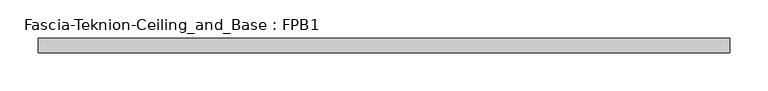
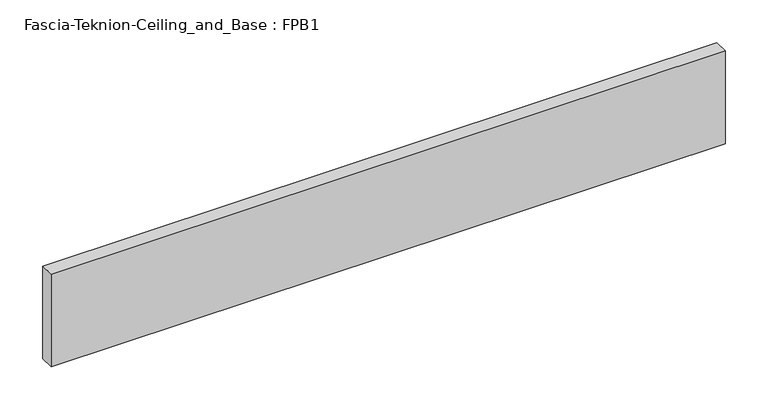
"""IFC4 building model written with IfcOpenShell, lengths in millimetres: proxy geometry, Fascia-Teknion-Ceiling_and_Base : FPB1."""

from ifc_helpers import new_model, si_unit, origin, origin_with_axes, place, context, project, spatial, polyline, outline, extrude, source, transform, mapped, element, save


def fascia_teknion_ceiling_and_base_fpb1_a659cb20(model_context):
    return source(origin(), model_context, "Body", "SweptSolid", [
        extrude(outline(polyline([(454.025, 0.0), (-454.025, 0.0), (-454.025, 19.05), (454.025, 19.05), (454.025, 0.0)])), origin_with_axes(), (0.0, 0.0, 1.0), 132.08),
    ])


if __name__ == "__main__":
    model = new_model("IFC4")
    model_context = context("Model", 3, world=origin())
    ifc_project = project(units=[si_unit("LENGTHUNIT", "METRE", prefix="MILLI")], contexts=[model_context])
    site = spatial("IfcSite", under=ifc_project)
    building = spatial("IfcBuilding", under=site)
    placement = place(None, origin())
    fascia_teknion_ceiling_and_base_fpb1_shape = fascia_teknion_ceiling_and_base_fpb1_a659cb20(model_context)
    element("IfcBuildingElementProxy", 1, Name="Fascia-Teknion-Ceiling_and_Base : FPB1", ObjectType="Fascia-Teknion-Ceiling_and_Base : FPB1", at=placement, inside=building, context=model_context, shape_type="MappedRepresentation", body=[
        mapped(fascia_teknion_ceiling_and_base_fpb1_shape, transform((0.0, 0.0, 0.0), x_axis=(1.0, 0.0, 0.0), y_axis=(0.0, 1.0, 0.0), z_axis=(0.0, 0.0, 1.0))),
    ])
    save(model, "model.ifc")
